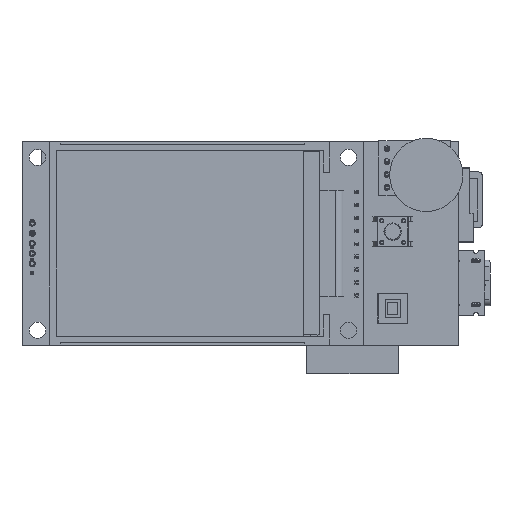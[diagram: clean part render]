
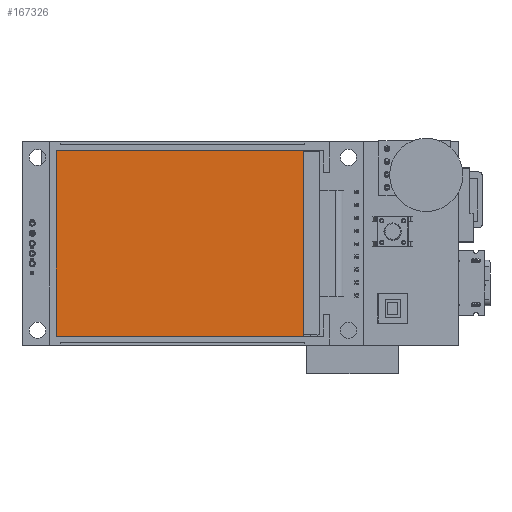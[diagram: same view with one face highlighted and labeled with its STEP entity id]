
A CAD part, front view. The second image highlights one B-rep face of the part: STEP entity #167326.
In plain terms, the highlighted planar face has unit normal (0, -1, 0) as drawn and (0, 0, 1) by its records, which use the part's own axes.
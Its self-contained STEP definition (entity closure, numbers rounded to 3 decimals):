
#13505=FACE_OUTER_BOUND('',#22938,.T.);
#22938=EDGE_LOOP('',(#117028,#117029,#117030,#117031));
#36344=LINE('',#230422,#54534);
#36347=LINE('',#230428,#54537);
#36350=LINE('',#230434,#54540);
#36353=LINE('',#230439,#54543);
#54534=VECTOR('',#192425,1.);
#54537=VECTOR('',#192430,1.);
#54540=VECTOR('',#192435,1.);
#54543=VECTOR('',#192440,1.);
#72088=VERTEX_POINT('',#230419);
#72089=VERTEX_POINT('',#230421);
#72091=VERTEX_POINT('',#230427);
#72093=VERTEX_POINT('',#230433);
#89307=EDGE_CURVE('',#72088,#72089,#36344,.T.);
#89310=EDGE_CURVE('',#72089,#72091,#36347,.T.);
#89313=EDGE_CURVE('',#72091,#72093,#36350,.T.);
#89316=EDGE_CURVE('',#72093,#72088,#36353,.T.);
#117028=ORIENTED_EDGE('',*,*,#89307,.F.);
#117029=ORIENTED_EDGE('',*,*,#89316,.F.);
#117030=ORIENTED_EDGE('',*,*,#89313,.F.);
#117031=ORIENTED_EDGE('',*,*,#89310,.F.);
#161019=PLANE('',#178438);
#167326=ADVANCED_FACE('',(#13505),#161019,.F.);
#178438=AXIS2_PLACEMENT_3D('',#230442,#192444,#192445);
#192425=DIRECTION('',(1.,0.,0.));
#192430=DIRECTION('',(0.,-1.,0.));
#192435=DIRECTION('',(-1.,0.,0.));
#192440=DIRECTION('',(0.,1.,0.));
#192444=DIRECTION('center_axis',(0.,0.,-1.));
#192445=DIRECTION('ref_axis',(-1.,0.,0.));
#230419=CARTESIAN_POINT('',(-21.65,18.25,4.7));
#230421=CARTESIAN_POINT('',(26.85,18.25,4.7));
#230422=CARTESIAN_POINT('',(-21.65,18.25,4.7));
#230427=CARTESIAN_POINT('',(26.85,-18.25,4.7));
#230428=CARTESIAN_POINT('',(26.85,18.25,4.7));
#230433=CARTESIAN_POINT('',(-21.65,-18.25,4.7));
#230434=CARTESIAN_POINT('',(26.85,-18.25,4.7));
#230439=CARTESIAN_POINT('',(-21.65,-18.25,4.7));
#230442=CARTESIAN_POINT('Origin',(2.6,0.,4.7));
